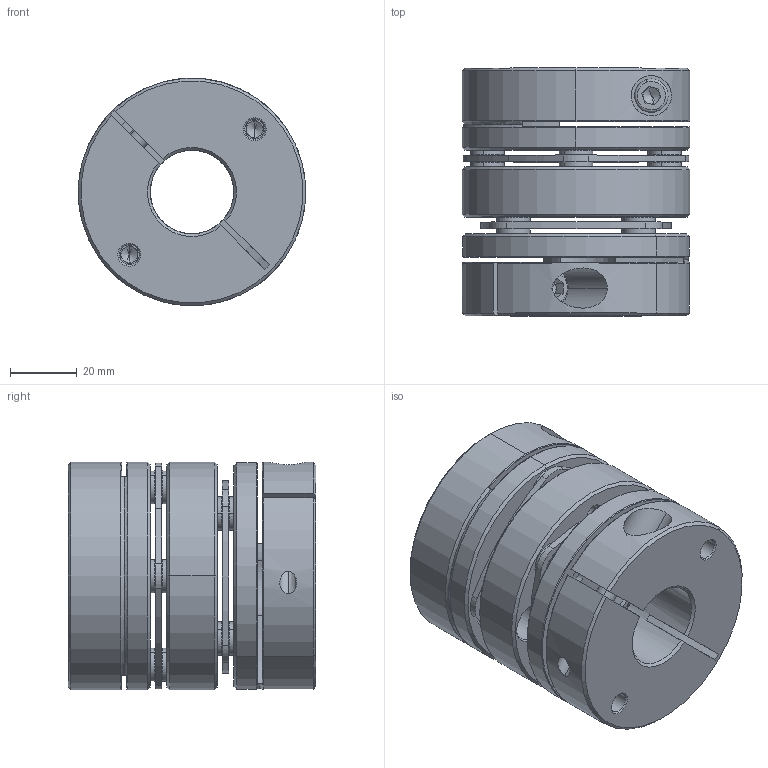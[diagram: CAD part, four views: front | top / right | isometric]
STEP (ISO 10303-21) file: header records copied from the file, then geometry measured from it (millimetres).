
FILE_DESCRIPTION (( 'STEP AP203' ), '1' );
FILE_NAME ('LD2-D68-25-25.STEP', '2021-10-26T08:44:52', ( '' ), ( '' ), 'SwSTEP 2.0', 'SolidWorks 2018', '' );
FILE_SCHEMA (( 'CONFIG_CONTROL_DESIGN' ));
Length unit declared in the file: millimetre
Products named in the file (2): LD2-D68-25-25; 錨璃102^LD2-D68
Assembly tree (1 placements, depth 2):
  LD2-D68-25-25
    錨璃102^LD2-D68
Bounding box: 68 x 74 x 68 mm (x, y, z)
Volume: 181722.2 mm3; surface area: 63945.3 mm2
Topology: 1 solids, 27 shells, 732 faces, 1696 edges, 1032 vertices
Faces by surface type: cylinder 256, cone 226, plane 220, torus 30
Entity records: 21398 total; most frequent: DIRECTION 3974, CARTESIAN_POINT 3912, ORIENTED_EDGE 3344, EDGE_CURVE 1672, AXIS2_PLACEMENT_3D 1614, VERTEX_POINT 1032, CIRCLE 878, EDGE_LOOP 868
